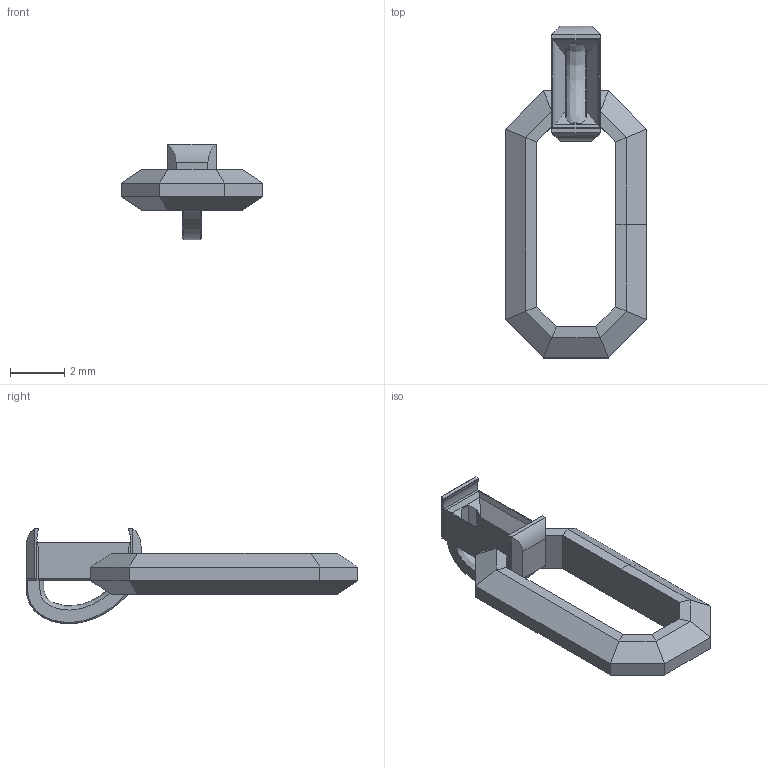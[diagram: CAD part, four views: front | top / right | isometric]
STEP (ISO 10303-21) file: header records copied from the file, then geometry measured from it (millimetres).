
FILE_DESCRIPTION(/* description */ (''),/* implementation_level */ '2;1');
FILE_NAME(/* name */ 's-4829',/* time_stamp */ '2021-07-05T14:36:37+09:00',/* author */ (''),/* organization */ (''),/* preprocessor_version */ 'ST-DEVELOPER v15',/* originating_system */ '',/* authorisation */ '');
FILE_SCHEMA (('AUTOMOTIVE_DESIGN'));
Length unit declared in the file: millimetre
Products named in the file (1): Document
Bounding box: 5.2 x 12.2 x 3.5 mm (x, y, z)
Volume: 36.8 mm3; surface area: 141.4 mm2
Topology: 1 solids, 1 shells, 146 faces, 360 edges, 211 vertices
Faces by surface type: bspline 85, plane 61
Entity records: 4961 total; most frequent: CARTESIAN_POINT 2634, ORIENTED_EDGE 720, EDGE_CURVE 360, B_SPLINE_CURVE_WITH_KNOTS 345, VERTEX_POINT 211, EDGE_LOOP 147, ADVANCED_FACE 146, FACE_OUTER_BOUND 146
